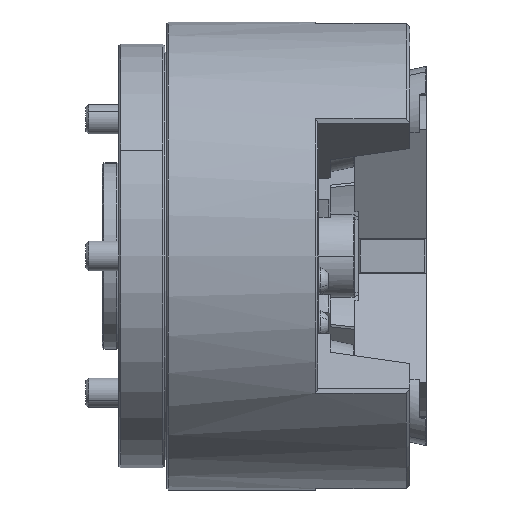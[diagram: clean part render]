
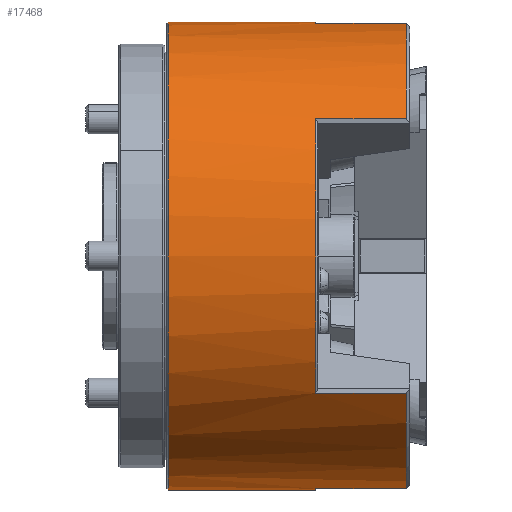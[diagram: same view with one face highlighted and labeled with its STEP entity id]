
A CAD part, front view. The second image highlights one B-rep face of the part: STEP entity #17468.
In plain terms, the highlighted cylindrical face has radius 127 mm (diameter 254 mm), a partial arc.
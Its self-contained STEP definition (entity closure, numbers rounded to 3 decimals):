
#197 = ORIENTED_EDGE ( 'NONE', *, *, #21356, .T. ) ;
#329 = LINE ( 'NONE', #32026, #13334 ) ;
#629 = CARTESIAN_POINT ( 'NONE',  ( 76., -13.044, -126.328 ) ) ;
#741 = CARTESIAN_POINT ( 'NONE',  ( 63.843, 0., 0. ) ) ;
#1014 = CARTESIAN_POINT ( 'NONE',  ( 76., 0., -127. ) ) ;
#1287 = CARTESIAN_POINT ( 'NONE',  ( 76., -13.044, 126.328 ) ) ;
#2089 = VERTEX_POINT ( 'NONE', #11911 ) ;
#2529 = ORIENTED_EDGE ( 'NONE', *, *, #17489, .T. ) ;
#2847 = ORIENTED_EDGE ( 'NONE', *, *, #23870, .T. ) ;
#4004 = CARTESIAN_POINT ( 'NONE',  ( 76., -102.881, 74.461 ) ) ;
#4198 = AXIS2_PLACEMENT_3D ( 'NONE', #8084, #26245, #10681 ) ;
#4319 = DIRECTION ( 'NONE',  ( -1., 0., 0. ) ) ;
#4505 = CARTESIAN_POINT ( 'NONE',  ( -4., 0., 0. ) ) ;
#4753 = CARTESIAN_POINT ( 'NONE',  ( -4., 0., -127. ) ) ;
#4800 = CIRCLE ( 'NONE', #26339, 127. ) ;
#4875 = DIRECTION ( 'NONE',  ( -1., 0., 0. ) ) ;
#4959 = AXIS2_PLACEMENT_3D ( 'NONE', #741, #31918, #26724 ) ;
#6181 = AXIS2_PLACEMENT_3D ( 'NONE', #6612, #24766, #9211 ) ;
#6184 = CARTESIAN_POINT ( 'NONE',  ( 125., -13.044, 126.328 ) ) ;
#6260 = EDGE_CURVE ( 'NONE', #32852, #12504, #27043, .T. ) ;
#6583 = VECTOR ( 'NONE', #4875, 1000. ) ;
#6612 = CARTESIAN_POINT ( 'NONE',  ( 76., 0., 0. ) ) ;
#7103 = ORIENTED_EDGE ( 'NONE', *, *, #13593, .F. ) ;
#7111 = DIRECTION ( 'NONE',  ( 0., 0., -1. ) ) ;
#7167 = VERTEX_POINT ( 'NONE', #629 ) ;
#7444 = CIRCLE ( 'NONE', #9254, 127. ) ;
#8084 = CARTESIAN_POINT ( 'NONE',  ( 76., 0., 0. ) ) ;
#8568 = EDGE_LOOP ( 'NONE', ( #10809, #20258, #31235, #197, #2529, #7103, #11847, #31924, #2847, #17436, #29272, #17207 ) ) ;
#8769 = VERTEX_POINT ( 'NONE', #14741 ) ;
#9211 = DIRECTION ( 'NONE',  ( 0., 0., -1. ) ) ;
#9254 = AXIS2_PLACEMENT_3D ( 'NONE', #29915, #14378, #32496 ) ;
#9380 = CARTESIAN_POINT ( 'NONE',  ( 125., -102.881, -74.461 ) ) ;
#9472 = VECTOR ( 'NONE', #9508, 1000. ) ;
#9508 = DIRECTION ( 'NONE',  ( 1., 0., 0. ) ) ;
#9566 = VERTEX_POINT ( 'NONE', #6184 ) ;
#10681 = DIRECTION ( 'NONE',  ( 0., 0., -1. ) ) ;
#10809 = ORIENTED_EDGE ( 'NONE', *, *, #11259, .F. ) ;
#11251 = CARTESIAN_POINT ( 'NONE',  ( 125., -13.044, -126.328 ) ) ;
#11259 = EDGE_CURVE ( 'NONE', #2089, #11441, #30979, .T. ) ;
#11441 = VERTEX_POINT ( 'NONE', #23332 ) ;
#11823 = CARTESIAN_POINT ( 'NONE',  ( 125., 0., 0. ) ) ;
#11847 = ORIENTED_EDGE ( 'NONE', *, *, #6260, .T. ) ;
#11911 = CARTESIAN_POINT ( 'NONE',  ( -4., 0., 127. ) ) ;
#12045 = LINE ( 'NONE', #32889, #25841 ) ;
#12092 = EDGE_CURVE ( 'NONE', #30834, #20414, #29448, .T. ) ;
#12188 = EDGE_CURVE ( 'NONE', #20823, #11441, #33060, .T. ) ;
#12504 = VERTEX_POINT ( 'NONE', #30960 ) ;
#13259 = DIRECTION ( 'NONE',  ( -1., 0., 0. ) ) ;
#13334 = VECTOR ( 'NONE', #16545, 1000. ) ;
#13593 = EDGE_CURVE ( 'NONE', #32852, #32147, #7444, .T. ) ;
#13936 = CIRCLE ( 'NONE', #18844, 127. ) ;
#14021 = VECTOR ( 'NONE', #21606, 1000. ) ;
#14378 = DIRECTION ( 'NONE',  ( 1., 0., 0. ) ) ;
#14428 = DIRECTION ( 'NONE',  ( 0., 0., -1. ) ) ;
#14741 = CARTESIAN_POINT ( 'NONE',  ( 125., -102.881, 74.461 ) ) ;
#14831 = EDGE_CURVE ( 'NONE', #9566, #20823, #20385, .T. ) ;
#16545 = DIRECTION ( 'NONE',  ( 1., 0., 0. ) ) ;
#17207 = ORIENTED_EDGE ( 'NONE', *, *, #12188, .T. ) ;
#17436 = ORIENTED_EDGE ( 'NONE', *, *, #19994, .F. ) ;
#17468 = ADVANCED_FACE ( 'NONE', ( #27948 ), #27149, .T. ) ;
#17489 = EDGE_CURVE ( 'NONE', #7167, #32147, #329, .T. ) ;
#18844 = AXIS2_PLACEMENT_3D ( 'NONE', #4505, #22667, #7111 ) ;
#19333 = VECTOR ( 'NONE', #13259, 1000. ) ;
#19862 = CARTESIAN_POINT ( 'NONE',  ( 76., 0., 0. ) ) ;
#19976 = VERTEX_POINT ( 'NONE', #4004 ) ;
#19994 = EDGE_CURVE ( 'NONE', #9566, #8769, #20933, .T. ) ;
#20258 = ORIENTED_EDGE ( 'NONE', *, *, #26964, .T. ) ;
#20385 = LINE ( 'NONE', #22927, #6583 ) ;
#20414 = VERTEX_POINT ( 'NONE', #1014 ) ;
#20823 = VERTEX_POINT ( 'NONE', #1287 ) ;
#20933 = CIRCLE ( 'NONE', #30652, 127. ) ;
#21356 = EDGE_CURVE ( 'NONE', #20414, #7167, #4800, .T. ) ;
#21606 = DIRECTION ( 'NONE',  ( 1., 0., 0. ) ) ;
#22474 = DIRECTION ( 'NONE',  ( 0., 0., -1. ) ) ;
#22667 = DIRECTION ( 'NONE',  ( 1., 0., 0. ) ) ;
#22927 = CARTESIAN_POINT ( 'NONE',  ( 63.843, -13.044, 126.328 ) ) ;
#23332 = CARTESIAN_POINT ( 'NONE',  ( 76., 0., 127. ) ) ;
#23870 = EDGE_CURVE ( 'NONE', #19976, #8769, #12045, .T. ) ;
#24766 = DIRECTION ( 'NONE',  ( -1., 0., 0. ) ) ;
#25841 = VECTOR ( 'NONE', #30193, 1000. ) ;
#26245 = DIRECTION ( 'NONE',  ( -1., 0., 0. ) ) ;
#26339 = AXIS2_PLACEMENT_3D ( 'NONE', #19862, #4319, #22474 ) ;
#26724 = DIRECTION ( 'NONE',  ( 0., 0., -1. ) ) ;
#26798 = CARTESIAN_POINT ( 'NONE',  ( 63.843, 0., -127. ) ) ;
#26964 = EDGE_CURVE ( 'NONE', #2089, #30834, #13936, .T. ) ;
#27043 = LINE ( 'NONE', #31380, #19333 ) ;
#27149 = CYLINDRICAL_SURFACE ( 'NONE', #4959, 127. ) ;
#27736 = EDGE_CURVE ( 'NONE', #12504, #19976, #32131, .T. ) ;
#27948 = FACE_OUTER_BOUND ( 'NONE', #8568, .T. ) ;
#29272 = ORIENTED_EDGE ( 'NONE', *, *, #14831, .T. ) ;
#29448 = LINE ( 'NONE', #26798, #14021 ) ;
#29915 = CARTESIAN_POINT ( 'NONE',  ( 125., 0., 0. ) ) ;
#29968 = DIRECTION ( 'NONE',  ( 1., 0., 0. ) ) ;
#30193 = DIRECTION ( 'NONE',  ( 1., 0., 0. ) ) ;
#30652 = AXIS2_PLACEMENT_3D ( 'NONE', #11823, #29968, #14428 ) ;
#30834 = VERTEX_POINT ( 'NONE', #4753 ) ;
#30960 = CARTESIAN_POINT ( 'NONE',  ( 76., -102.881, -74.461 ) ) ;
#30979 = LINE ( 'NONE', #32737, #9472 ) ;
#31235 = ORIENTED_EDGE ( 'NONE', *, *, #12092, .T. ) ;
#31380 = CARTESIAN_POINT ( 'NONE',  ( 63.843, -102.881, -74.461 ) ) ;
#31918 = DIRECTION ( 'NONE',  ( 1., 0., 0. ) ) ;
#31924 = ORIENTED_EDGE ( 'NONE', *, *, #27736, .T. ) ;
#32026 = CARTESIAN_POINT ( 'NONE',  ( 63.843, -13.044, -126.328 ) ) ;
#32131 = CIRCLE ( 'NONE', #4198, 127. ) ;
#32147 = VERTEX_POINT ( 'NONE', #11251 ) ;
#32496 = DIRECTION ( 'NONE',  ( 0., 0., -1. ) ) ;
#32737 = CARTESIAN_POINT ( 'NONE',  ( 63.843, 0., 127. ) ) ;
#32852 = VERTEX_POINT ( 'NONE', #9380 ) ;
#32889 = CARTESIAN_POINT ( 'NONE',  ( 63.843, -102.881, 74.461 ) ) ;
#33060 = CIRCLE ( 'NONE', #6181, 127. ) ;
